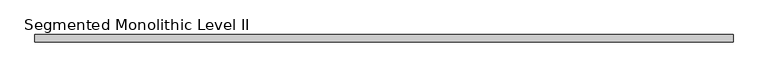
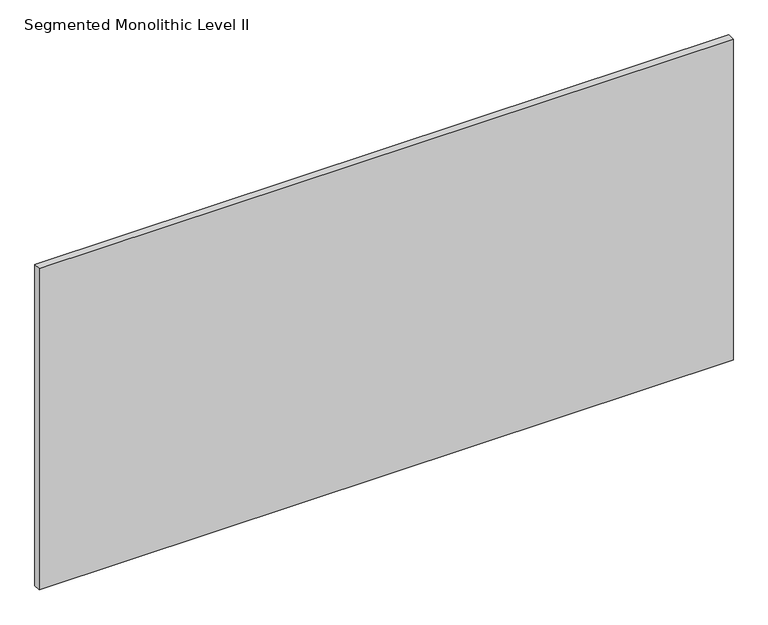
"""IFC4 building model written with IfcOpenShell, lengths in millimetres: proxy geometry, Panel-Fascia-Teknion-Altos-Standard : Segmented Monolithic Level II."""

import ifcopenshell
import ifcopenshell.guid

model = None  # the IFC model being written
_history = None  # IfcOwnerHistory: only IFC2X3 demands one
_inside = {}  # id of a spatial element -> (the spatial element, [elements in it])
_under = {}  # id of a project, library or spatial element -> (it, [spatial elements below it])
_declared = {}  # id of a project -> (the project, [libraries it declares])
_typed = {}  # id of a type object -> (the type object, [elements of that type])
_made_of = {}  # id of a material, layer set ... -> (it, [elements and type objects made of it])


def new_model(schema):
    """Start an empty IFC model of exactly this schema.

    Asked for "IFC4X3", IfcOpenShell would pick the latest addendum, in which some entities
    have other attributes; the version numbers below select the first issue.
    IFC2X3 requires an IfcOwnerHistory on every rooted entity: one is made here for all.
    """
    global model, _history
    if schema == "IFC4X3":
        model = ifcopenshell.file(schema_version=(4, 3, 0, 0))
    else:
        model = ifcopenshell.file(schema=schema)
    _inside.clear()
    _under.clear()
    _declared.clear()
    _typed.clear()
    _made_of.clear()
    _history = None
    if model.schema == "IFC2X3":
        org = make("IfcOrganization", Name="unknown")
        user = make(
            "IfcPersonAndOrganization",
            ThePerson=make("IfcPerson", FamilyName="unknown"),
            TheOrganization=org,
        )
        app = make(
            "IfcApplication",
            ApplicationDeveloper=org,
            Version="unknown",
            ApplicationFullName="unknown",
            ApplicationIdentifier="unknown",
        )
        _history = make(
            "IfcOwnerHistory",
            OwningUser=user,
            OwningApplication=app,
            ChangeAction="ADDED",
            CreationDate=0,
        )
    return model


def make(cls, **values):
    """One entity of the class cls with the attributes given. An attribute that is None is left unset."""
    return model.create_entity(
        cls, **{name: value for name, value in values.items() if value is not None}
    )


def rooted(cls, **values):
    """An entity with a GlobalId (a new one), such as an element, a storey or a relation."""
    return make(cls, GlobalId=ifcopenshell.guid.new(), OwnerHistory=_history, **values)


def si_unit(unit_type, name, prefix=None):
    """IfcSIUnit, for example si_unit("LENGTHUNIT", "METRE", prefix="MILLI")."""
    return make("IfcSIUnit", UnitType=unit_type, Prefix=prefix, Name=name)


def assignment(units):
    """IfcUnitAssignment: the units of a project."""
    return None if units is None else make("IfcUnitAssignment", Units=units)


def point(xyz):
    """IfcCartesianPoint."""
    return None if xyz is None else make("IfcCartesianPoint", Coordinates=xyz)


def direction(xyz):
    """IfcDirection."""
    return None if xyz is None else make("IfcDirection", DirectionRatios=xyz)


def frame(location, z_axis=None, x_axis=None):
    """IfcAxis2Placement3D, a coordinate frame: its origin and axes. An axis left out is left unset."""
    return make(
        "IfcAxis2Placement3D",
        Location=point(location),
        Axis=direction(z_axis),
        RefDirection=direction(x_axis),
    )


def origin():
    """The frame at (0, 0, 0) with its axes left unset."""
    return frame((0.0, 0.0, 0.0))


def place(relative_to, where):
    """IfcLocalPlacement: puts the frame where relative to a parent placement (None: the world)."""
    return make(
        "IfcLocalPlacement", PlacementRelTo=relative_to, RelativePlacement=where
    )


def context(
    kind, dimensions, precision=None, world=None, true_north=None, identifier=None
):
    """IfcGeometricRepresentationContext, for example the 3D "Model" context."""
    return make(
        "IfcGeometricRepresentationContext",
        ContextIdentifier=identifier,
        ContextType=kind,
        CoordinateSpaceDimension=dimensions,
        Precision=precision,
        WorldCoordinateSystem=world,
        TrueNorth=true_north,
    )


def project(units=None, contexts=None):
    """IfcProject with its units and contexts."""
    return rooted(
        "IfcProject",
        Name="project",
        RepresentationContexts=contexts,
        UnitsInContext=assignment(units),
    )


def spatial(cls, under=None, at=None, **own):
    """A site, building, storey or space (cls), placed at a placement, below another one or the project."""
    s = rooted(cls, ObjectPlacement=at, **own)
    if under is not None:
        _under.setdefault(under.id(), (under, []))[1].append(s)
    return s


def polyline(points):
    """IfcPolyline through the points."""
    return make("IfcPolyline", Points=[point(p) for p in points])


def outline(outer, holes=None, kind="AREA"):
    """IfcArbitraryClosedProfileDef: a profile drawn as a closed curve; with holes, ...WithVoids."""
    if holes is None:
        return make("IfcArbitraryClosedProfileDef", ProfileType=kind, OuterCurve=outer)
    return make(
        "IfcArbitraryProfileDefWithVoids",
        ProfileType=kind,
        OuterCurve=outer,
        InnerCurves=holes,
    )


def extrude(swept, where, along, depth):
    """IfcExtrudedAreaSolid: the profile swept, set in the frame where, extruded along a direction by depth."""
    return make(
        "IfcExtrudedAreaSolid",
        SweptArea=swept,
        Position=where,
        ExtrudedDirection=direction(along),
        Depth=depth,
    )


def shape(context_of_items, identifier, shape_type, items):
    """IfcShapeRepresentation: the items that make up one representation, for example the "Body"."""
    return make(
        "IfcShapeRepresentation",
        ContextOfItems=context_of_items,
        RepresentationIdentifier=identifier,
        RepresentationType=shape_type,
        Items=items,
    )


def source(mapping_origin, context_of_items, identifier, shape_type, items):
    """IfcRepresentationMap: a shape defined once, which mapped items show again and again."""
    return make(
        "IfcRepresentationMap",
        MappingOrigin=mapping_origin,
        MappedRepresentation=shape(context_of_items, identifier, shape_type, items),
    )


def transform(
    local_origin,
    x_axis=None,
    y_axis=None,
    z_axis=None,
    scale=None,
    scale2=None,
    scale3=None,
    uniform=True,
):
    """IfcCartesianTransformationOperator3D, or its non-uniform kind. x_axis, y_axis, z_axis: its Axis1, 2, 3."""
    if uniform:
        return make(
            "IfcCartesianTransformationOperator3D",
            Axis1=direction(x_axis),
            Axis2=direction(y_axis),
            LocalOrigin=point(local_origin),
            Scale=scale,
            Axis3=direction(z_axis),
        )
    return make(
        "IfcCartesianTransformationOperator3DnonUniform",
        Axis1=direction(x_axis),
        Axis2=direction(y_axis),
        LocalOrigin=point(local_origin),
        Scale=scale,
        Axis3=direction(z_axis),
        Scale2=scale2,
        Scale3=scale3,
    )


def mapped(mapping_source, mapping_target):
    """IfcMappedItem: shows the shape of a source again, moved by a transform."""
    return make(
        "IfcMappedItem", MappingSource=mapping_source, MappingTarget=mapping_target
    )


def made_of(thing, what):
    """Note that an element or type object is made of a material, layer set ...; save() writes the relation."""
    if what is not None:
        _made_of.setdefault(what.id(), (what, []))[1].append(thing)
    return thing


def element(
    cls,
    number,
    at=None,
    inside=None,
    cuts=None,
    type_object=None,
    material=None,
    context=None,
    identifier="Body",
    shape_type=None,
    held_by="IfcProductDefinitionShape",
    body=None,
    shapes=None,
    **own,
):
    """One element of the class cls, such as IfcWall. Its Tag is "e" and its number.

    at: its placement. inside: the storey or other place that contains it. cuts: it is an
    opening in that element (IfcRelVoidsElement). A single representation is given by context,
    identifier, shape_type and body (its items); several are given by shapes. held_by: the class
    of the entity that holds the representations. save() writes the other relations.
    """
    e = rooted(cls, Tag="e%d" % number, ObjectPlacement=at, **own)
    if body is not None:
        shapes = [shape(context, identifier, shape_type, body)]
    if shapes is not None:
        e.Representation = make(held_by, Representations=shapes)
    if inside is not None:
        _inside.setdefault(inside.id(), (inside, []))[1].append(e)
    if cuts is not None:
        rooted(
            "IfcRelVoidsElement", RelatingBuildingElement=cuts, RelatedOpeningElement=e
        )
    if type_object is not None:
        _typed.setdefault(type_object.id(), (type_object, []))[1].append(e)
    return made_of(e, material)


def aggregate(whole, parts):
    """IfcRelAggregates: a whole, such as a stair, and the parts it consists of."""
    return rooted("IfcRelAggregates", RelatingObject=whole, RelatedObjects=parts)


def save(model, path):
    """Write the relations noted so far, then the file.

    IfcRelAggregates (storeys below a building ...), IfcRelContainedInSpatialStructure (elements
    in a storey), IfcRelDefinesByType, IfcRelAssociatesMaterial and IfcRelDeclares: one each for
    every whole, place, type object, material and project.
    """
    for whole, parts in _under.values():
        aggregate(whole, parts)
    for where, things in _inside.values():
        rooted(
            "IfcRelContainedInSpatialStructure",
            RelatedElements=things,
            RelatingStructure=where,
        )
    for kind, things in _typed.values():
        rooted("IfcRelDefinesByType", RelatedObjects=things, RelatingType=kind)
    for what, things in _made_of.values():
        rooted("IfcRelAssociatesMaterial", RelatedObjects=things, RelatingMaterial=what)
    for by, libraries in _declared.values():
        rooted("IfcRelDeclares", RelatingContext=by, RelatedDefinitions=libraries)
    model.write(path)


def segmented_monolithic_level_ii_36634c45(model_context):
    return source(origin(), model_context, "Body", "SweptSolid", [
        extrude(outline(polyline([(911.225, 9.525), (911.225, -9.525), (-911.225, -9.525), (-911.225, 9.525), (911.225, 9.525)])), frame((0.0, 0.0, 3.175), z_axis=(0.0, 0.0, 1.0), x_axis=(1.0, 0.0, 0.0)), (0.0, 0.0, 1.0), 892.175),
    ])


if __name__ == "__main__":
    model = new_model("IFC4")
    model_context = context("Model", 3, world=origin())
    ifc_project = project(units=[si_unit("LENGTHUNIT", "METRE", prefix="MILLI")], contexts=[model_context])
    site = spatial("IfcSite", under=ifc_project)
    building = spatial("IfcBuilding", under=site)
    placement = place(None, origin())
    segmented_monolithic_level_ii_shape = segmented_monolithic_level_ii_36634c45(model_context)
    element("IfcBuildingElementProxy", 1, Name="Panel-Fascia-Teknion-Altos-Standard : Segmented Monolithic Level II", ObjectType="Panel-Fascia-Teknion-Altos-Standard : Segmented Monolithic Level II", at=placement, inside=building, context=model_context, shape_type="MappedRepresentation", body=[
        mapped(segmented_monolithic_level_ii_shape, transform((0.0, 0.0, 0.0), x_axis=(1.0, 0.0, 0.0), y_axis=(0.0, 1.0, 0.0), z_axis=(0.0, 0.0, 1.0))),
    ])
    save(model, "model.ifc")
